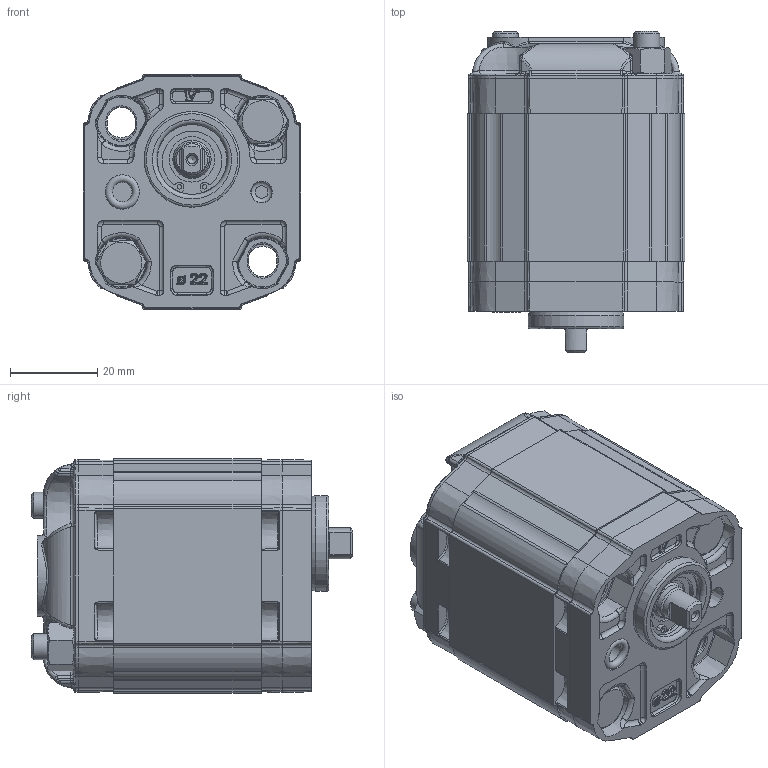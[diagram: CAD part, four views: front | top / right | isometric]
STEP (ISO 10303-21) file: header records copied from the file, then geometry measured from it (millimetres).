
FILE_DESCRIPTION(/* description */ ('Unknown'),/* implementation_level */ '2;1');
FILE_NAME(/* name */ 'X0P0623BZZB',/* time_stamp */ '2026-05-25T16:55:50+02:00',/* author */ ('Unknown'),/* organization */ ('Unknown'),/* preprocessor_version */ 'ST-DEVELOPER v16.7',/* originating_system */ 'Solid Edge',/* authorisation */ 'Unknown');
FILE_SCHEMA (('AUTOMOTIVE_DESIGN {1 0 10303 214 3 1 1}'));
Products named in the file (5): X0P0623BZZB; X0P23; 0B; X0ZZH34; XP017-B
Assembly tree (4 placements, depth 2):
  X0P0623BZZB
    X0P23
    0B
    X0ZZH34
    XP017-B
Bounding box: 50 x 73.8 x 54 mm (x, y, z)
Volume: 134534.7 mm3; surface area: 35166.1 mm2
Topology: 5 solids, 6 shells, 1578 faces, 3833 edges, 2283 vertices
Faces by surface type: cylinder 446, plane 378, bspline 329, cone 228, torus 164, sphere 33
Full cylindrical faces by diameter (mm): 1.053 x2, 2 x1, 5 x1, 6 x4, 6.01 x2, 6.5 x4, 6.511 x1, 6.518 x1, 7.16 x1, 7.5 x2, 7.9 x2, 7.92 x1, 8 x2, 9.318 x1, 10 x2, 10.445 x1, 11 x1, 11.445 x1, 13 x1, 14 x1, 16 x1, 16.2 x1, 16.8 x1, 22 x1
Entity records: 105135 total; most frequent: CARTESIAN_POINT 60320, ORIENTED_EDGE 7302, DIRECTION 6480, EDGE_CURVE 3651, AXIS2_PLACEMENT_3D 2689, VERTEX_POINT 2231, FACE_BOUND 1772, EDGE_LOOP 1771
